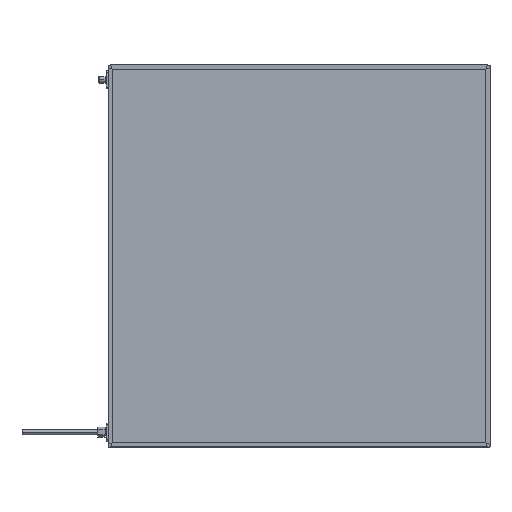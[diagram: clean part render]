
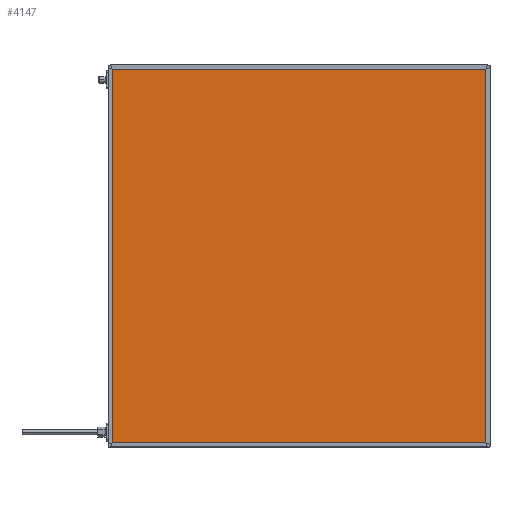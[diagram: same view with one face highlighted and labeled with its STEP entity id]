
A CAD part, top view. The second image highlights one B-rep face of the part: STEP entity #4147.
In plain terms, the highlighted planar face has unit normal (0, 0, 1).
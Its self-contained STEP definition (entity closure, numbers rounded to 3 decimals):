
#211 = ORIENTED_EDGE ( 'NONE', *, *, #7932, .T. ) ;
#889 = FACE_OUTER_BOUND ( 'NONE', #2636, .T. ) ;
#1064 = ORIENTED_EDGE ( 'NONE', *, *, #1160, .T. ) ;
#1160 = EDGE_CURVE ( 'NONE', #2101, #10455, #11402, .T. ) ;
#1434 = LINE ( 'NONE', #2986, #16674 ) ;
#2101 = VERTEX_POINT ( 'NONE', #15055 ) ;
#2308 = EDGE_CURVE ( 'NONE', #12239, #2101, #1434, .T. ) ;
#2636 = EDGE_LOOP ( 'NONE', ( #211, #10525, #16304, #1064 ) ) ;
#2986 = CARTESIAN_POINT ( 'NONE',  ( 4., 0., 41.85 ) ) ;
#3261 = VECTOR ( 'NONE', #4468, 1000. ) ;
#4147 = ADVANCED_FACE ( 'NONE', ( #889 ), #7931, .F. ) ;
#4468 = DIRECTION ( 'NONE',  ( 1., 0., 0. ) ) ;
#4663 = EDGE_CURVE ( 'NONE', #8065, #12239, #12995, .T. ) ;
#5658 = CARTESIAN_POINT ( 'NONE',  ( 0., 4., 41.85 ) ) ;
#6457 = VECTOR ( 'NONE', #15512, 1000. ) ;
#6465 = DIRECTION ( 'NONE',  ( 0., 0., -1. ) ) ;
#7022 = CARTESIAN_POINT ( 'NONE',  ( 696., 696., 41.85 ) ) ;
#7415 = DIRECTION ( 'NONE',  ( -1., 0., 0. ) ) ;
#7931 = PLANE ( 'NONE',  #13564 ) ;
#7932 = EDGE_CURVE ( 'NONE', #10455, #8065, #11318, .T. ) ;
#8065 = VERTEX_POINT ( 'NONE', #7022 ) ;
#8188 = VECTOR ( 'NONE', #7415, 1000. ) ;
#8464 = DIRECTION ( 'NONE',  ( 0., -1., 0. ) ) ;
#8665 = CARTESIAN_POINT ( 'NONE',  ( 696., 0., 41.85 ) ) ;
#9575 = CARTESIAN_POINT ( 'NONE',  ( 0., 0., 41.85 ) ) ;
#10455 = VERTEX_POINT ( 'NONE', #14622 ) ;
#10525 = ORIENTED_EDGE ( 'NONE', *, *, #4663, .T. ) ;
#11318 = LINE ( 'NONE', #8665, #6457 ) ;
#11402 = LINE ( 'NONE', #5658, #3261 ) ;
#12239 = VERTEX_POINT ( 'NONE', #15306 ) ;
#12995 = LINE ( 'NONE', #16892, #8188 ) ;
#13564 = AXIS2_PLACEMENT_3D ( 'NONE', #9575, #6465, #16412 ) ;
#14622 = CARTESIAN_POINT ( 'NONE',  ( 696., 4., 41.85 ) ) ;
#15055 = CARTESIAN_POINT ( 'NONE',  ( 4., 4., 41.85 ) ) ;
#15306 = CARTESIAN_POINT ( 'NONE',  ( 4., 696., 41.85 ) ) ;
#15512 = DIRECTION ( 'NONE',  ( 0., 1., 0. ) ) ;
#16304 = ORIENTED_EDGE ( 'NONE', *, *, #2308, .T. ) ;
#16412 = DIRECTION ( 'NONE',  ( -1., 0., 0. ) ) ;
#16674 = VECTOR ( 'NONE', #8464, 1000. ) ;
#16892 = CARTESIAN_POINT ( 'NONE',  ( 0., 696., 41.85 ) ) ;
